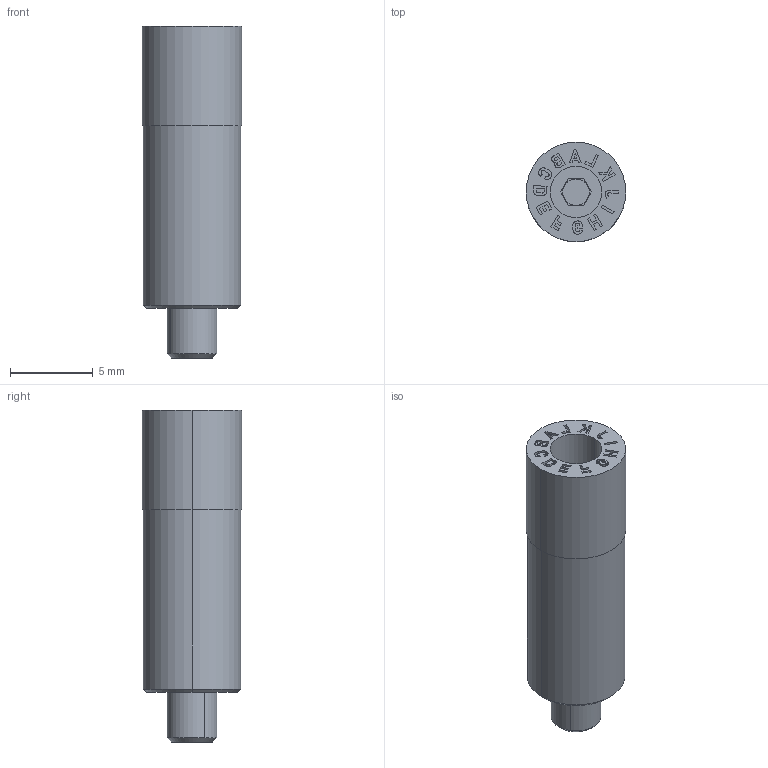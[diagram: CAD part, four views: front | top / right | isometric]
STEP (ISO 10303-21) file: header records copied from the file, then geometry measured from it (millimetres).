
FILE_DESCRIPTION (( 'STEP AP203' ), '1' );
FILE_NAME ('DNA06.step', '2020-08-21T08:44:56', ( 'Microsoft Corporation' ), ( 'MS' ), 'SwSTEP 2.0', 'SolidWorks 2018', '' );
FILE_SCHEMA (( 'CONFIG_CONTROL_DESIGN' ));
Length unit declared in the file: millimetre
Products named in the file (3): DNA06; M3 X .5 SHSS
Assembly tree (2 placements, depth 2):
  DNA06
    DNA06
    M3 X .5 SHSS
Bounding box: 6 x 6 x 20 mm (x, y, z)
Volume: 443.2 mm3; surface area: 555 mm2
Topology: 2 solids, 2 shells, 189 faces, 486 edges, 320 vertices
Faces by surface type: plane 139, bspline 32, cylinder 12, cone 6
Entity records: 7589 total; most frequent: CARTESIAN_POINT 2864, ORIENTED_EDGE 972, DIRECTION 782, EDGE_CURVE 486, VECTOR 386, LINE 386, VERTEX_POINT 320, EDGE_LOOP 210
